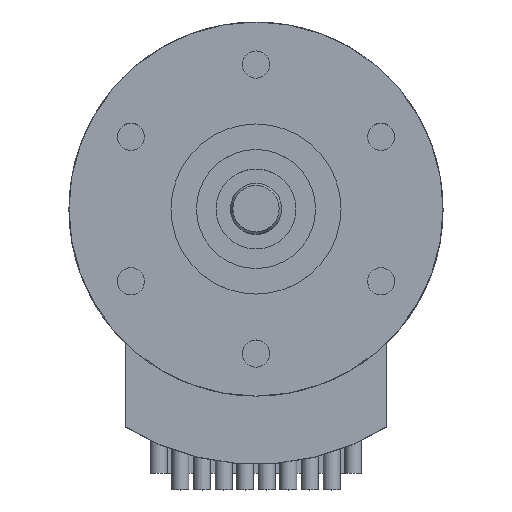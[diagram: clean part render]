
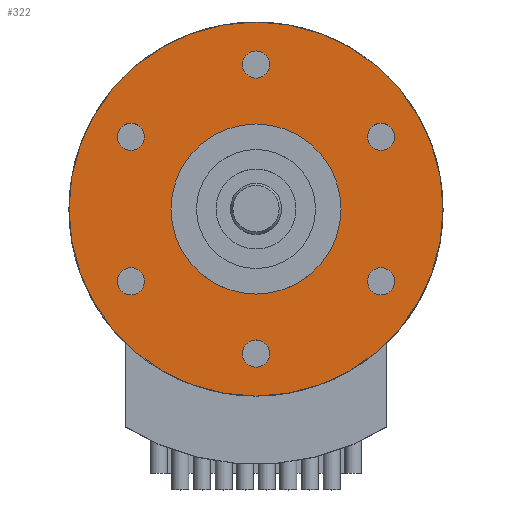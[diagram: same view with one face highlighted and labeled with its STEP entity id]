
A CAD part, top view. The second image highlights one B-rep face of the part: STEP entity #322.
In plain terms, the highlighted planar face has unit normal (0, 0, 1).
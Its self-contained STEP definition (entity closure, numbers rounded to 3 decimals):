
#99=FACE_BOUND('',#559,.T.);
#100=FACE_BOUND('',#560,.T.);
#101=FACE_BOUND('',#561,.T.);
#102=FACE_BOUND('',#562,.T.);
#103=FACE_BOUND('',#563,.T.);
#104=FACE_BOUND('',#564,.T.);
#105=FACE_BOUND('',#565,.T.);
#106=FACE_BOUND('',#566,.T.);
#221=CIRCLE('',#1763,11.);
#222=CIRCLE('',#1765,0.8);
#223=CIRCLE('',#1766,0.8);
#224=CIRCLE('',#1767,0.8);
#225=CIRCLE('',#1768,0.8);
#226=CIRCLE('',#1769,0.8);
#227=CIRCLE('',#1770,0.8);
#228=CIRCLE('',#1771,5.);
#322=ADVANCED_FACE('',(#99,#100,#101,#102,#103,#104,#105,#106),#429,.T.);
#429=PLANE('',#1772);
#559=EDGE_LOOP('',(#843));
#560=EDGE_LOOP('',(#844));
#561=EDGE_LOOP('',(#845));
#562=EDGE_LOOP('',(#846));
#563=EDGE_LOOP('',(#847));
#564=EDGE_LOOP('',(#848));
#565=EDGE_LOOP('',(#849));
#566=EDGE_LOOP('',(#850));
#843=ORIENTED_EDGE('',*,*,#1400,.T.);
#844=ORIENTED_EDGE('',*,*,#1401,.T.);
#845=ORIENTED_EDGE('',*,*,#1402,.T.);
#846=ORIENTED_EDGE('',*,*,#1403,.T.);
#847=ORIENTED_EDGE('',*,*,#1404,.T.);
#848=ORIENTED_EDGE('',*,*,#1405,.T.);
#849=ORIENTED_EDGE('',*,*,#1406,.F.);
#850=ORIENTED_EDGE('',*,*,#1399,.F.);
#1218=VERTEX_POINT('',#2709);
#1219=VERTEX_POINT('',#2712);
#1220=VERTEX_POINT('',#2714);
#1221=VERTEX_POINT('',#2716);
#1222=VERTEX_POINT('',#2718);
#1223=VERTEX_POINT('',#2720);
#1224=VERTEX_POINT('',#2722);
#1225=VERTEX_POINT('',#2724);
#1399=EDGE_CURVE('',#1218,#1218,#221,.T.);
#1400=EDGE_CURVE('',#1219,#1219,#222,.T.);
#1401=EDGE_CURVE('',#1220,#1220,#223,.T.);
#1402=EDGE_CURVE('',#1221,#1221,#224,.T.);
#1403=EDGE_CURVE('',#1222,#1222,#225,.T.);
#1404=EDGE_CURVE('',#1223,#1223,#226,.T.);
#1405=EDGE_CURVE('',#1224,#1224,#227,.T.);
#1406=EDGE_CURVE('',#1225,#1225,#228,.T.);
#1763=AXIS2_PLACEMENT_3D('',#2708,#2125,#2126);
#1765=AXIS2_PLACEMENT_3D('',#2711,#2129,#2130);
#1766=AXIS2_PLACEMENT_3D('',#2713,#2131,#2132);
#1767=AXIS2_PLACEMENT_3D('',#2715,#2133,#2134);
#1768=AXIS2_PLACEMENT_3D('',#2717,#2135,#2136);
#1769=AXIS2_PLACEMENT_3D('',#2719,#2137,#2138);
#1770=AXIS2_PLACEMENT_3D('',#2721,#2139,#2140);
#1771=AXIS2_PLACEMENT_3D('',#2723,#2141,#2142);
#1772=AXIS2_PLACEMENT_3D('',#2725,#2143,#2144);
#2125=DIRECTION('',(0.,0.,-1.));
#2126=DIRECTION('',(1.,0.,0.));
#2129=DIRECTION('',(0.,0.,-1.));
#2130=DIRECTION('',(-1.,0.,0.));
#2131=DIRECTION('',(0.,0.,-1.));
#2132=DIRECTION('',(-1.,0.,0.));
#2133=DIRECTION('',(0.,0.,-1.));
#2134=DIRECTION('',(-1.,0.,0.));
#2135=DIRECTION('',(0.,0.,-1.));
#2136=DIRECTION('',(-1.,0.,0.));
#2137=DIRECTION('',(0.,0.,-1.));
#2138=DIRECTION('',(-1.,0.,0.));
#2139=DIRECTION('',(0.,0.,-1.));
#2140=DIRECTION('',(-1.,0.,0.));
#2141=DIRECTION('',(0.,0.,1.));
#2142=DIRECTION('',(1.,0.,0.));
#2143=DIRECTION('',(0.,0.,1.));
#2144=DIRECTION('',(1.,0.,0.));
#2708=CARTESIAN_POINT('',(0.,0.,0.));
#2709=CARTESIAN_POINT('',(11.,0.,0.));
#2711=CARTESIAN_POINT('',(7.361,4.25,0.));
#2712=CARTESIAN_POINT('',(6.561,4.25,0.));
#2713=CARTESIAN_POINT('',(7.361,-4.25,0.));
#2714=CARTESIAN_POINT('',(6.561,-4.25,0.));
#2715=CARTESIAN_POINT('',(0.,-8.5,0.));
#2716=CARTESIAN_POINT('',(-0.8,-8.5,0.));
#2717=CARTESIAN_POINT('',(-7.361,-4.25,0.));
#2718=CARTESIAN_POINT('',(-8.161,-4.25,0.));
#2719=CARTESIAN_POINT('',(-7.361,4.25,0.));
#2720=CARTESIAN_POINT('',(-8.161,4.25,0.));
#2721=CARTESIAN_POINT('',(0.,8.5,0.));
#2722=CARTESIAN_POINT('',(-0.8,8.5,0.));
#2723=CARTESIAN_POINT('',(0.,0.,0.));
#2724=CARTESIAN_POINT('',(5.,0.,0.));
#2725=CARTESIAN_POINT('',(0.,0.,0.));
